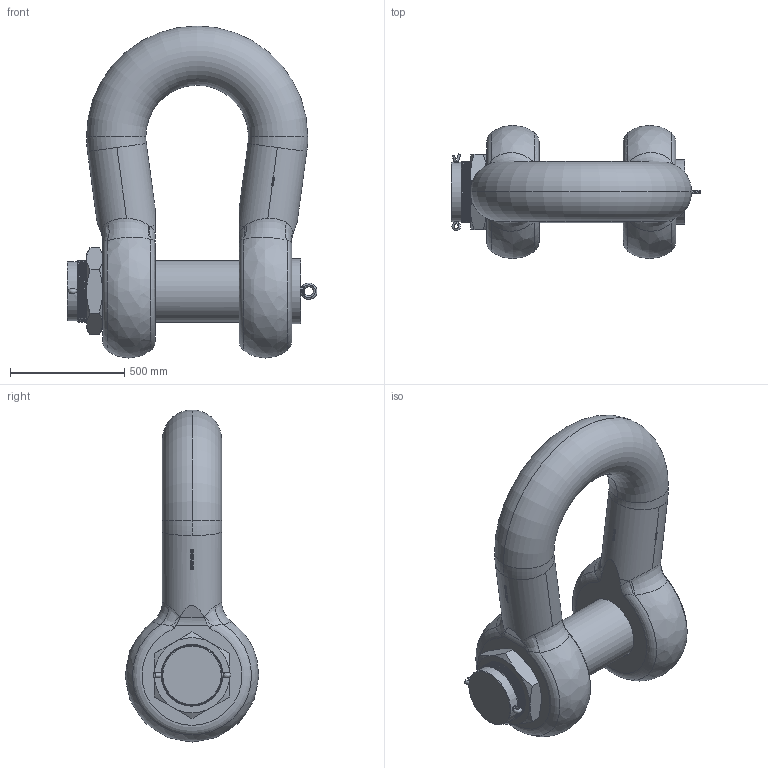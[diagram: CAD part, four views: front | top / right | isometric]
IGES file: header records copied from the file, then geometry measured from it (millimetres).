
Global section: file name: No Iges File Name specified; native system: Autodesk Inventor 2009; preprocessor: AutoDesk Inventor Iges Exporter R2009; author: Jack; date: 20091212.144108; units: millimetre
Bounding box: 1096 x 585 x 1455.49 mm (x, y, z)
Volume: 247138134.8 mm3; surface area: 4643715 mm2
Topology: 5 solids, 5 shells, 866 faces, 2332 edges, 1531 vertices
Faces by surface type: plane 424, bspline 251, cylinder 113, revolution 36, torus 22, cone 20
Full cylindrical faces by diameter (mm): 270 x20
